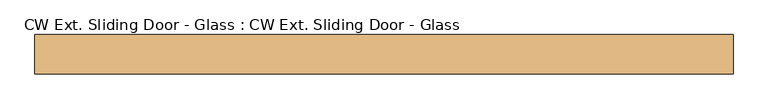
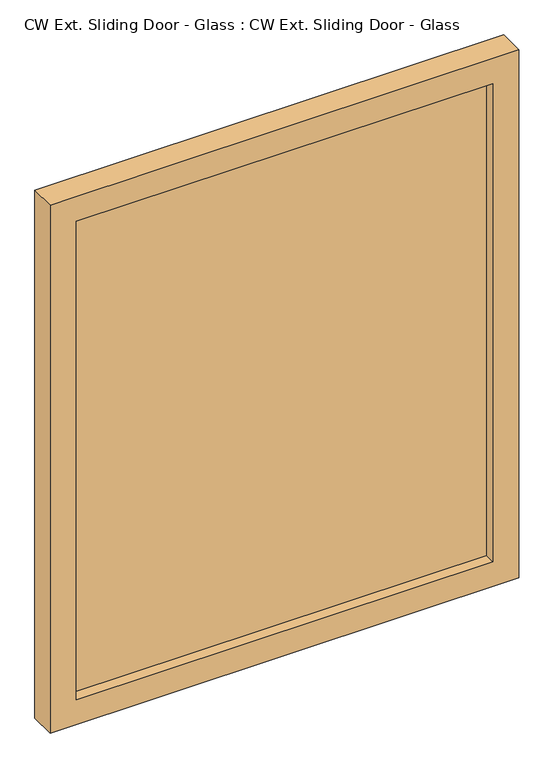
"""IFC4 building model written with IfcOpenShell, lengths in millimetres: door geometry, CW Ext. Sliding Door - Glass : CW Ext. Sliding Door - Glass."""

import ifcopenshell
import ifcopenshell.guid

model = None  # the IFC model being written
_history = None  # IfcOwnerHistory: only IFC2X3 demands one
_inside = {}  # id of a spatial element -> (the spatial element, [elements in it])
_under = {}  # id of a project, library or spatial element -> (it, [spatial elements below it])
_declared = {}  # id of a project -> (the project, [libraries it declares])
_typed = {}  # id of a type object -> (the type object, [elements of that type])
_made_of = {}  # id of a material, layer set ... -> (it, [elements and type objects made of it])


def new_model(schema):
    """Start an empty IFC model of exactly this schema.

    Asked for "IFC4X3", IfcOpenShell would pick the latest addendum, in which some entities
    have other attributes; the version numbers below select the first issue.
    IFC2X3 requires an IfcOwnerHistory on every rooted entity: one is made here for all.
    """
    global model, _history
    if schema == "IFC4X3":
        model = ifcopenshell.file(schema_version=(4, 3, 0, 0))
    else:
        model = ifcopenshell.file(schema=schema)
    _inside.clear()
    _under.clear()
    _declared.clear()
    _typed.clear()
    _made_of.clear()
    _history = None
    if model.schema == "IFC2X3":
        org = make("IfcOrganization", Name="unknown")
        user = make(
            "IfcPersonAndOrganization",
            ThePerson=make("IfcPerson", FamilyName="unknown"),
            TheOrganization=org,
        )
        app = make(
            "IfcApplication",
            ApplicationDeveloper=org,
            Version="unknown",
            ApplicationFullName="unknown",
            ApplicationIdentifier="unknown",
        )
        _history = make(
            "IfcOwnerHistory",
            OwningUser=user,
            OwningApplication=app,
            ChangeAction="ADDED",
            CreationDate=0,
        )
    return model


def make(cls, **values):
    """One entity of the class cls with the attributes given. An attribute that is None is left unset."""
    return model.create_entity(
        cls, **{name: value for name, value in values.items() if value is not None}
    )


def rooted(cls, **values):
    """An entity with a GlobalId (a new one), such as an element, a storey or a relation."""
    return make(cls, GlobalId=ifcopenshell.guid.new(), OwnerHistory=_history, **values)


def si_unit(unit_type, name, prefix=None):
    """IfcSIUnit, for example si_unit("LENGTHUNIT", "METRE", prefix="MILLI")."""
    return make("IfcSIUnit", UnitType=unit_type, Prefix=prefix, Name=name)


def assignment(units):
    """IfcUnitAssignment: the units of a project."""
    return None if units is None else make("IfcUnitAssignment", Units=units)


def point(xyz):
    """IfcCartesianPoint."""
    return None if xyz is None else make("IfcCartesianPoint", Coordinates=xyz)


def direction(xyz):
    """IfcDirection."""
    return None if xyz is None else make("IfcDirection", DirectionRatios=xyz)


def frame(location, z_axis=None, x_axis=None):
    """IfcAxis2Placement3D, a coordinate frame: its origin and axes. An axis left out is left unset."""
    return make(
        "IfcAxis2Placement3D",
        Location=point(location),
        Axis=direction(z_axis),
        RefDirection=direction(x_axis),
    )


def origin():
    """The frame at (0, 0, 0) with its axes left unset."""
    return frame((0.0, 0.0, 0.0))


def place(relative_to, where):
    """IfcLocalPlacement: puts the frame where relative to a parent placement (None: the world)."""
    return make(
        "IfcLocalPlacement", PlacementRelTo=relative_to, RelativePlacement=where
    )


def context(
    kind, dimensions, precision=None, world=None, true_north=None, identifier=None
):
    """IfcGeometricRepresentationContext, for example the 3D "Model" context."""
    return make(
        "IfcGeometricRepresentationContext",
        ContextIdentifier=identifier,
        ContextType=kind,
        CoordinateSpaceDimension=dimensions,
        Precision=precision,
        WorldCoordinateSystem=world,
        TrueNorth=true_north,
    )


def project(units=None, contexts=None):
    """IfcProject with its units and contexts."""
    return rooted(
        "IfcProject",
        Name="project",
        RepresentationContexts=contexts,
        UnitsInContext=assignment(units),
    )


def spatial(cls, under=None, at=None, **own):
    """A site, building, storey or space (cls), placed at a placement, below another one or the project."""
    s = rooted(cls, ObjectPlacement=at, **own)
    if under is not None:
        _under.setdefault(under.id(), (under, []))[1].append(s)
    return s


def polyline(points):
    """IfcPolyline through the points."""
    return make("IfcPolyline", Points=[point(p) for p in points])


def outline(outer, holes=None, kind="AREA"):
    """IfcArbitraryClosedProfileDef: a profile drawn as a closed curve; with holes, ...WithVoids."""
    if holes is None:
        return make("IfcArbitraryClosedProfileDef", ProfileType=kind, OuterCurve=outer)
    return make(
        "IfcArbitraryProfileDefWithVoids",
        ProfileType=kind,
        OuterCurve=outer,
        InnerCurves=holes,
    )


def extrude(swept, where, along, depth):
    """IfcExtrudedAreaSolid: the profile swept, set in the frame where, extruded along a direction by depth."""
    return make(
        "IfcExtrudedAreaSolid",
        SweptArea=swept,
        Position=where,
        ExtrudedDirection=direction(along),
        Depth=depth,
    )


def shape(context_of_items, identifier, shape_type, items):
    """IfcShapeRepresentation: the items that make up one representation, for example the "Body"."""
    return make(
        "IfcShapeRepresentation",
        ContextOfItems=context_of_items,
        RepresentationIdentifier=identifier,
        RepresentationType=shape_type,
        Items=items,
    )


def source(mapping_origin, context_of_items, identifier, shape_type, items):
    """IfcRepresentationMap: a shape defined once, which mapped items show again and again."""
    return make(
        "IfcRepresentationMap",
        MappingOrigin=mapping_origin,
        MappedRepresentation=shape(context_of_items, identifier, shape_type, items),
    )


def transform(
    local_origin,
    x_axis=None,
    y_axis=None,
    z_axis=None,
    scale=None,
    scale2=None,
    scale3=None,
    uniform=True,
):
    """IfcCartesianTransformationOperator3D, or its non-uniform kind. x_axis, y_axis, z_axis: its Axis1, 2, 3."""
    if uniform:
        return make(
            "IfcCartesianTransformationOperator3D",
            Axis1=direction(x_axis),
            Axis2=direction(y_axis),
            LocalOrigin=point(local_origin),
            Scale=scale,
            Axis3=direction(z_axis),
        )
    return make(
        "IfcCartesianTransformationOperator3DnonUniform",
        Axis1=direction(x_axis),
        Axis2=direction(y_axis),
        LocalOrigin=point(local_origin),
        Scale=scale,
        Axis3=direction(z_axis),
        Scale2=scale2,
        Scale3=scale3,
    )


def mapped(mapping_source, mapping_target):
    """IfcMappedItem: shows the shape of a source again, moved by a transform."""
    return make(
        "IfcMappedItem", MappingSource=mapping_source, MappingTarget=mapping_target
    )


def made_of(thing, what):
    """Note that an element or type object is made of a material, layer set ...; save() writes the relation."""
    if what is not None:
        _made_of.setdefault(what.id(), (what, []))[1].append(thing)
    return thing


def element(
    cls,
    number,
    at=None,
    inside=None,
    cuts=None,
    type_object=None,
    material=None,
    context=None,
    identifier="Body",
    shape_type=None,
    held_by="IfcProductDefinitionShape",
    body=None,
    shapes=None,
    **own,
):
    """One element of the class cls, such as IfcWall. Its Tag is "e" and its number.

    at: its placement. inside: the storey or other place that contains it. cuts: it is an
    opening in that element (IfcRelVoidsElement). A single representation is given by context,
    identifier, shape_type and body (its items); several are given by shapes. held_by: the class
    of the entity that holds the representations. save() writes the other relations.
    """
    e = rooted(cls, Tag="e%d" % number, ObjectPlacement=at, **own)
    if body is not None:
        shapes = [shape(context, identifier, shape_type, body)]
    if shapes is not None:
        e.Representation = make(held_by, Representations=shapes)
    if inside is not None:
        _inside.setdefault(inside.id(), (inside, []))[1].append(e)
    if cuts is not None:
        rooted(
            "IfcRelVoidsElement", RelatingBuildingElement=cuts, RelatedOpeningElement=e
        )
    if type_object is not None:
        _typed.setdefault(type_object.id(), (type_object, []))[1].append(e)
    return made_of(e, material)


def aggregate(whole, parts):
    """IfcRelAggregates: a whole, such as a stair, and the parts it consists of."""
    return rooted("IfcRelAggregates", RelatingObject=whole, RelatedObjects=parts)


def save(model, path):
    """Write the relations noted so far, then the file.

    IfcRelAggregates (storeys below a building ...), IfcRelContainedInSpatialStructure (elements
    in a storey), IfcRelDefinesByType, IfcRelAssociatesMaterial and IfcRelDeclares: one each for
    every whole, place, type object, material and project.
    """
    for whole, parts in _under.values():
        aggregate(whole, parts)
    for where, things in _inside.values():
        rooted(
            "IfcRelContainedInSpatialStructure",
            RelatedElements=things,
            RelatingStructure=where,
        )
    for kind, things in _typed.values():
        rooted("IfcRelDefinesByType", RelatedObjects=things, RelatingType=kind)
    for what, things in _made_of.values():
        rooted("IfcRelAssociatesMaterial", RelatedObjects=things, RelatingMaterial=what)
    for by, libraries in _declared.values():
        rooted("IfcRelDeclares", RelatingContext=by, RelatedDefinitions=libraries)
    model.write(path)


def cw_ext_sliding_door_glass_cw_ext_sliding_door_glass_fc66a621(model_context):
    return source(origin(), model_context, "Body", "SweptSolid", [
        extrude(outline(polyline([(-792.5, -41.0), (792.5, -41.0), (792.5, -59.0), (-792.5, -59.0), (-792.5, -41.0)])), frame((0.0, 0.0, 100.0), z_axis=(0.0, 0.0, 1.0), x_axis=(1.0, 0.0, 0.0)), (0.0, 0.0, 1.0), 1925.0),
        extrude(outline(polyline([(2125.0, -892.5), (0.0, -892.5), (0.0, 892.5), (2125.0, 892.5), (2125.0, -892.5)]), holes=[polyline([(2025.0, -792.5), (2025.0, 792.5), (100.0, 792.5), (100.0, -792.5), (2025.0, -792.5)])]), frame((0.0, -100.0, 0.0), z_axis=(0.0, 1.0, 0.0), x_axis=(0.0, 0.0, 1.0)), (0.0, 0.0, 1.0), 100.0),
    ])


if __name__ == "__main__":
    model = new_model("IFC4")
    model_context = context("Model", 3, world=origin())
    ifc_project = project(units=[si_unit("LENGTHUNIT", "METRE", prefix="MILLI")], contexts=[model_context])
    site = spatial("IfcSite", under=ifc_project)
    building = spatial("IfcBuilding", under=site)
    placement = place(None, origin())
    cw_ext_sliding_door_glass_cw_ext_sliding_door_glass_shape = cw_ext_sliding_door_glass_cw_ext_sliding_door_glass_fc66a621(model_context)
    element("IfcDoor", 1, ObjectType="CW Ext. Sliding Door - Glass : CW Ext. Sliding Door - Glass", at=placement, inside=building, context=model_context, shape_type="MappedRepresentation", body=[
        mapped(cw_ext_sliding_door_glass_cw_ext_sliding_door_glass_shape, transform((0.0, 0.0, 0.0), x_axis=(1.0, 0.0, 0.0), y_axis=(0.0, 1.0, 0.0), z_axis=(0.0, 0.0, 1.0))),
    ])
    save(model, "model.ifc")
